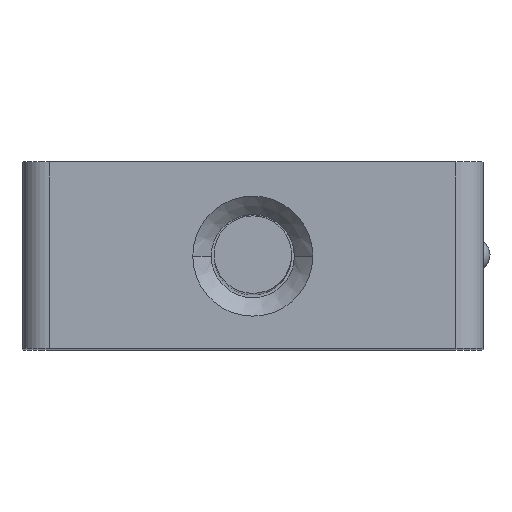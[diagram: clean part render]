
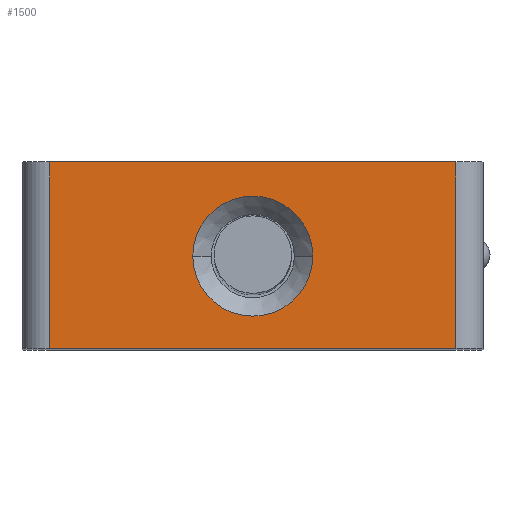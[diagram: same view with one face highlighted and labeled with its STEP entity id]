
A CAD part, top view. The second image highlights one B-rep face of the part: STEP entity #1500.
In plain terms, the highlighted planar face has unit normal (0, 0, 1).
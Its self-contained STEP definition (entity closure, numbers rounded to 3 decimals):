
#150=DIRECTION('',(-1.,0.,0.));
#151=VECTOR('',#150,22.);
#152=CARTESIAN_POINT('',(11.,0.,0.));
#153=LINE('',#152,#151);
#242=DIRECTION('',(0.,1.,0.));
#243=VECTOR('',#242,10.1);
#244=CARTESIAN_POINT('',(11.,-10.1,0.));
#245=LINE('',#244,#243);
#333=DIRECTION('',(0.,1.,0.));
#334=VECTOR('',#333,10.1);
#335=CARTESIAN_POINT('',(-11.,-10.1,0.));
#336=LINE('',#335,#334);
#384=DIRECTION('',(-1.,0.,0.));
#385=VECTOR('',#384,22.);
#386=CARTESIAN_POINT('',(11.,-10.1,0.));
#387=LINE('',#386,#385);
#635=CARTESIAN_POINT('',(0.,-5.1,0.));
#636=DIRECTION('',(0.,0.,1.));
#637=DIRECTION('',(1.,0.,0.));
#638=AXIS2_PLACEMENT_3D('',#635,#636,#637);
#665=CARTESIAN_POINT('',(0.,-5.1,0.));
#666=DIRECTION('',(0.,0.,1.));
#667=DIRECTION('',(-1.,0.,0.));
#668=AXIS2_PLACEMENT_3D('',#665,#666,#667);
#1161=CARTESIAN_POINT('',(11.,-10.1,0.));
#1162=VERTEX_POINT('',#1161);
#1163=CARTESIAN_POINT('',(11.,0.,0.));
#1164=VERTEX_POINT('',#1163);
#1165=CARTESIAN_POINT('',(-11.,-10.1,0.));
#1166=CARTESIAN_POINT('',(-11.,0.,0.));
#1167=VERTEX_POINT('',#1165);
#1168=VERTEX_POINT('',#1166);
#1189=CARTESIAN_POINT('',(-3.25,-5.1,0.));
#1190=CARTESIAN_POINT('',(3.25,-5.1,0.));
#1191=VERTEX_POINT('',#1189);
#1192=VERTEX_POINT('',#1190);
#1482=CARTESIAN_POINT('',(12.5,0.,0.));
#1483=DIRECTION('',(0.,0.,1.));
#1484=DIRECTION('',(-1.,0.,0.));
#1485=AXIS2_PLACEMENT_3D('',#1482,#1483,#1484);
#1486=PLANE('',#1485);
#1487=ORIENTED_EDGE('',*,*,#1337,.F.);
#1489=ORIENTED_EDGE('',*,*,#1488,.T.);
#1490=ORIENTED_EDGE('',*,*,#1466,.T.);
#1491=ORIENTED_EDGE('',*,*,#1286,.F.);
#1492=EDGE_LOOP('',(#1487,#1489,#1490,#1491));
#1493=FACE_OUTER_BOUND('',#1492,.F.);
#1495=ORIENTED_EDGE('',*,*,#1494,.T.);
#1497=ORIENTED_EDGE('',*,*,#1496,.T.);
#1498=EDGE_LOOP('',(#1495,#1497));
#1499=FACE_BOUND('',#1498,.F.);
#639=CIRCLE('',#638,3.25);
#669=CIRCLE('',#668,3.25);
#1286=EDGE_CURVE('',#1164,#1168,#153,.T.);
#1337=EDGE_CURVE('',#1162,#1164,#245,.T.);
#1466=EDGE_CURVE('',#1167,#1168,#336,.T.);
#1488=EDGE_CURVE('',#1162,#1167,#387,.T.);
#1494=EDGE_CURVE('',#1192,#1191,#639,.T.);
#1496=EDGE_CURVE('',#1191,#1192,#669,.T.);
#1500=ADVANCED_FACE('',(#1493,#1499),#1486,.T.);
